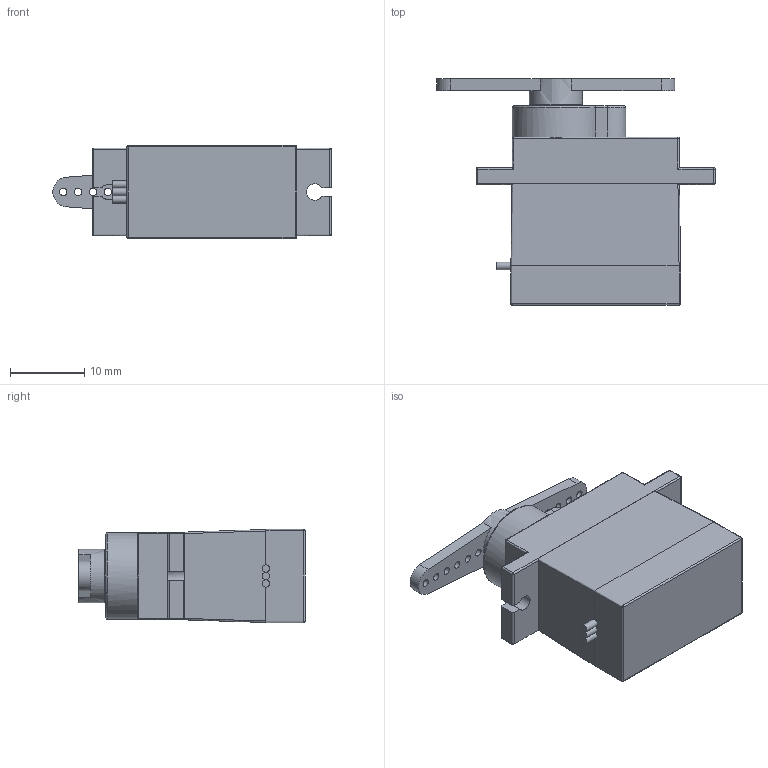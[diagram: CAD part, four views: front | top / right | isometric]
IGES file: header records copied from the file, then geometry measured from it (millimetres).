
Global section: file name: MicroServo9g; native system: unknown; preprocessor: unknown; author: unknown; organization: unknown; date: 20130804.134123; units: centimetre
Bounding box: 37.4 x 30.47 x 12.5 mm (x, y, z)
Volume: 7260 mm3; surface area: 3207.6 mm2
Topology: 4 solids, 6 shells, 135 faces, 305 edges, 182 vertices
Faces by surface type: bspline 135
